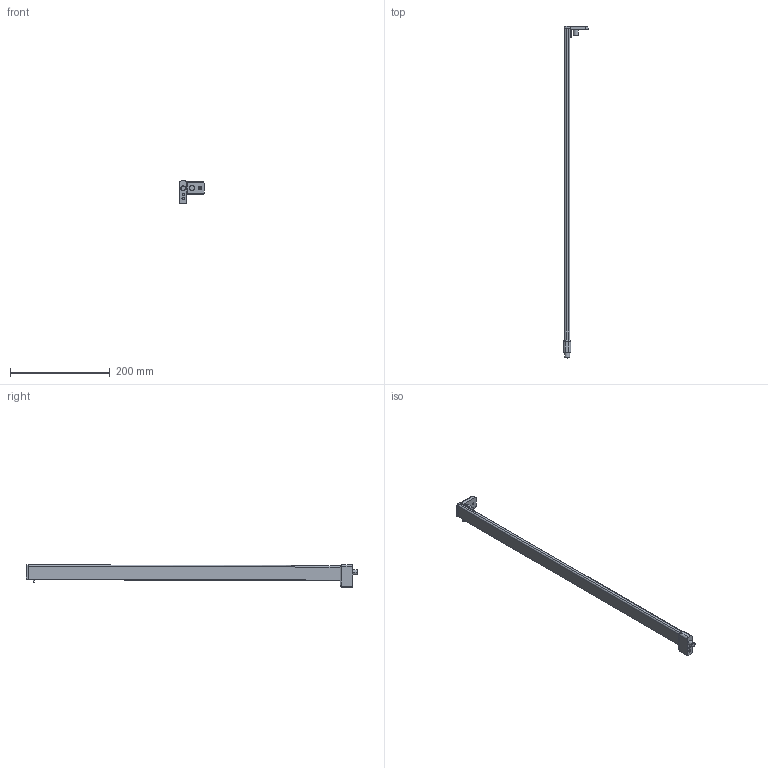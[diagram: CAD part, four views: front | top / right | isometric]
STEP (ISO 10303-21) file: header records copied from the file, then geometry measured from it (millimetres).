
FILE_DESCRIPTION (( 'STEP AP214' ), '1' );
FILE_NAME ('_2S_REL_7606_NL650_LI.step', '2010-07-01T14:41:49', ( 'grass' ), ( '' ), 'SwSTEP 2.0', 'SolidWorks 2009', '' );
FILE_SCHEMA (( 'AUTOMOTIVE_DESIGN' ));
Length unit declared in the file: millimetre
Products named in the file (1): _2S_REL_7606_NL650_LI
Bounding box: 49.25 x 665.5 x 45.4 mm (x, y, z)
Volume: 216199.4 mm3; surface area: 56959.1 mm2
Topology: 2 solids, 2 shells, 120 faces, 292 edges, 178 vertices
Faces by surface type: cylinder 58, plane 40, bspline 10, torus 6, cone 4, sphere 2
Entity records: 4528 total; most frequent: CARTESIAN_POINT 1803, ORIENTED_EDGE 580, DIRECTION 546, EDGE_CURVE 290, AXIS2_PLACEMENT_3D 203, VERTEX_POINT 178, LINE 140, VECTOR 140
